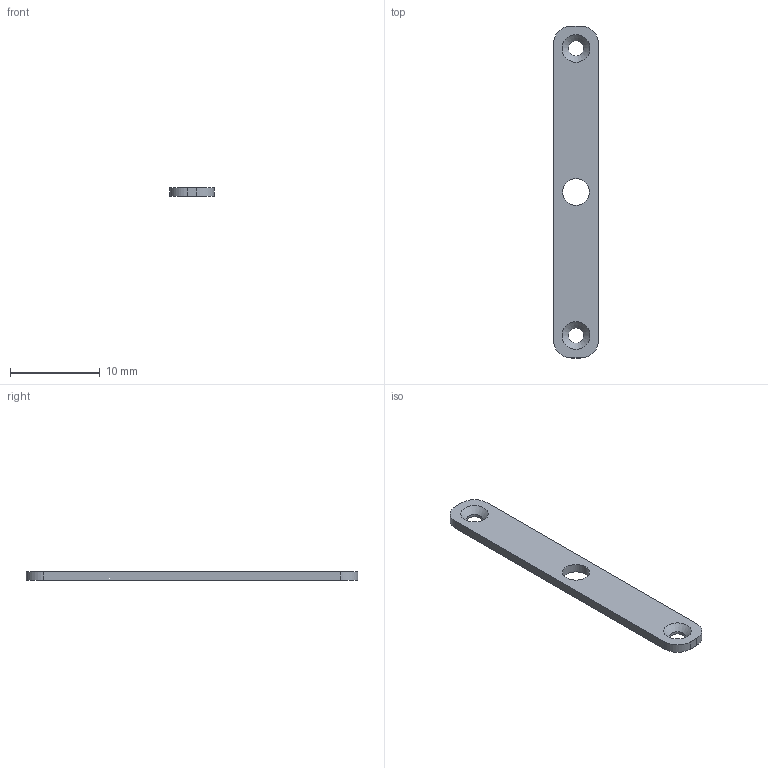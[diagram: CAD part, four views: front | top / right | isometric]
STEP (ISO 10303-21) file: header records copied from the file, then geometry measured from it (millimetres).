
FILE_DESCRIPTION(('FreeCAD Model'),'2;1');
FILE_NAME('Open CASCADE Shape Model','2025-06-08T22:45:15',(''),(''), 'Open CASCADE STEP processor 7.6','FreeCAD','Unknown');
FILE_SCHEMA(('CONFIG_CONTROL_DESIGN','SHAPE_APPEARANCE_LAYER_MIM'));
Length unit declared in the file: millimetre
Products named in the file (1): SmallCCDRetentionBar
Bounding box: 5 x 37 x 1 mm (x, y, z)
Volume: 166.6 mm3; surface area: 437.5 mm2
Topology: 1 solids, 1 shells, 15 faces, 37 edges, 24 vertices
Faces by surface type: cylinder 7, plane 6, cone 2
Full cylindrical faces by diameter (mm): 1.7 x2, 3 x1
Entity records: 515 total; most frequent: DIRECTION 85, CARTESIAN_POINT 77, ORIENTED_EDGE 74, EDGE_CURVE 37, AXIS2_PLACEMENT_3D 32, VERTEX_POINT 24, FACE_BOUND 21, EDGE_LOOP 21
